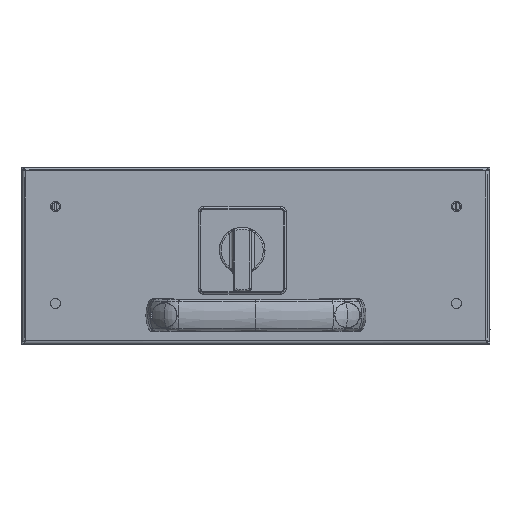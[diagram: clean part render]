
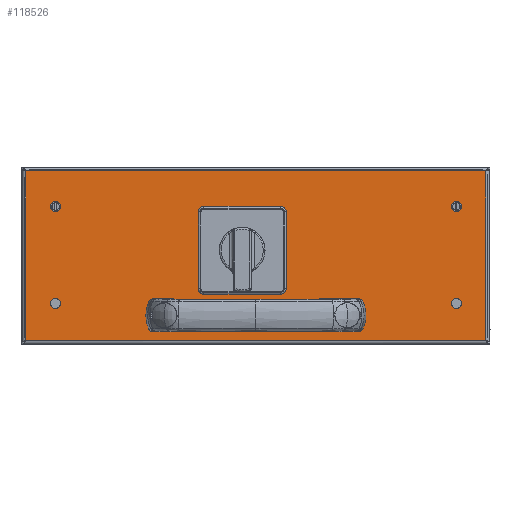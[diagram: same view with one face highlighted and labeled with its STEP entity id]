
A CAD part, top view. The second image highlights one B-rep face of the part: STEP entity #118526.
In plain terms, the highlighted planar face has unit normal (0, 0, 1).
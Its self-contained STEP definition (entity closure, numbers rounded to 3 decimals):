
#117566=CARTESIAN_POINT(' ',(52.75,-32.5,0.));
#117567=VERTEX_POINT(' ',#117566);
#117586=CARTESIAN_POINT(' ',(50.,-32.5,0.));
#117591=DIRECTION(' ',(0.,0.,1.));
#117596=DIRECTION(' ',(1.,0.,0.));
#117601=AXIS2_PLACEMENT_3D(' ',#117586,#117591,#117596);
#117606=CIRCLE('',#117601,2.75);
#117611=CARTESIAN_POINT(' ',(47.25,-32.5,0.));
#117612=VERTEX_POINT(' ',#117611);
#117616=EDGE_CURVE(' ',#117567,#117612,#117606,.T.);
#117786=CARTESIAN_POINT(' ',(50.,-32.5,0.));
#117791=DIRECTION(' ',(0.,0.,1.));
#117796=DIRECTION(' ',(-1.,0.,0.));
#117801=AXIS2_PLACEMENT_3D(' ',#117786,#117791,#117796);
#117806=CIRCLE('',#117801,2.75);
#117811=EDGE_CURVE(' ',#117612,#117567,#117806,.T.);
#117881=DIRECTION(' ',(-0.,-0.,1.));
#117886=CARTESIAN_POINT(' ',(125.65,-46.4,0.));
#117891=DIRECTION(' ',(0.,1.,0.));
#117896=AXIS2_PLACEMENT_3D(' ',#117886,#117881,#117891);
#117901=PLANE('NONE',#117896);
#117906=CARTESIAN_POINT(' ',(-125.65,46.4,0.));
#117911=DIRECTION(' ',(1.,0.,0.));
#117916=VECTOR(' ',#117911,1.);
#117921=LINE('',#117906,#117916);
#117926=CARTESIAN_POINT(' ',(-125.65,46.4,0.));
#117927=VERTEX_POINT(' ',#117926);
#117931=CARTESIAN_POINT(' ',(125.65,46.4,0.));
#117932=VERTEX_POINT(' ',#117931);
#117936=EDGE_CURVE(' ',#117927,#117932,#117921,.T.);
#117941=ORIENTED_EDGE(' ',*,*,#117936,.F.);
#117946=CARTESIAN_POINT(' ',(-125.65,-46.4,0.));
#117951=DIRECTION(' ',(0.,1.,0.));
#117956=VECTOR(' ',#117951,1.);
#117961=LINE('',#117946,#117956);
#117966=CARTESIAN_POINT(' ',(-125.65,-46.4,0.));
#117967=VERTEX_POINT(' ',#117966);
#117971=EDGE_CURVE(' ',#117967,#117927,#117961,.T.);
#117976=ORIENTED_EDGE(' ',*,*,#117971,.F.);
#117981=CARTESIAN_POINT(' ',(125.65,-46.4,0.));
#117986=DIRECTION(' ',(-1.,0.,0.));
#117991=VECTOR(' ',#117986,1.);
#117996=LINE('',#117981,#117991);
#118001=CARTESIAN_POINT(' ',(125.65,-46.4,0.));
#118002=VERTEX_POINT(' ',#118001);
#118006=EDGE_CURVE(' ',#118002,#117967,#117996,.T.);
#118011=ORIENTED_EDGE(' ',*,*,#118006,.F.);
#118016=CARTESIAN_POINT(' ',(125.65,46.4,0.));
#118021=DIRECTION(' ',(0.,-1.,0.));
#118026=VECTOR(' ',#118021,1.);
#118031=LINE('',#118016,#118026);
#118036=EDGE_CURVE(' ',#117932,#118002,#118031,.T.);
#118041=ORIENTED_EDGE(' ',*,*,#118036,.F.);
#118046=EDGE_LOOP(' ',(#117941,#117976,#118011,#118041));
#118051=FACE_OUTER_BOUND(' ',#118046,.T.);
#118056=CARTESIAN_POINT(' ',(-50.,-32.5,0.));
#118061=DIRECTION(' ',(0.,0.,1.));
#118066=DIRECTION(' ',(0.,1.,0.));
#118071=AXIS2_PLACEMENT_3D(' ',#118056,#118061,#118066);
#118076=CIRCLE('',#118071,2.75);
#118081=CARTESIAN_POINT(' ',(-50.,-29.75,0.));
#118082=VERTEX_POINT(' ',#118081);
#118086=CARTESIAN_POINT(' ',(-50.,-35.25,0.));
#118087=VERTEX_POINT(' ',#118086);
#118091=EDGE_CURVE(' ',#118082,#118087,#118076,.T.);
#118096=ORIENTED_EDGE(' ',*,*,#118091,.F.);
#118101=CARTESIAN_POINT(' ',(-50.,-32.5,0.));
#118106=DIRECTION(' ',(0.,0.,1.));
#118111=DIRECTION(' ',(0.,-1.,0.));
#118116=AXIS2_PLACEMENT_3D(' ',#118101,#118106,#118111);
#118121=CIRCLE('',#118116,2.75);
#118126=EDGE_CURVE(' ',#118087,#118082,#118121,.T.);
#118131=ORIENTED_EDGE(' ',*,*,#118126,.F.);
#118136=EDGE_LOOP(' ',(#118096,#118131));
#118141=FACE_BOUND(' ',#118136,.T.);
#118146=CARTESIAN_POINT(' ',(-109.5,-26.,0.));
#118151=DIRECTION(' ',(0.,-0.,1.));
#118156=DIRECTION(' ',(-1.,0.,0.));
#118161=AXIS2_PLACEMENT_3D(' ',#118146,#118151,#118156);
#118166=CIRCLE('',#118161,2.75);
#118171=CARTESIAN_POINT(' ',(-112.25,-26.,0.));
#118172=VERTEX_POINT(' ',#118171);
#118176=CARTESIAN_POINT(' ',(-106.75,-26.,0.));
#118177=VERTEX_POINT(' ',#118176);
#118181=EDGE_CURVE(' ',#118172,#118177,#118166,.T.);
#118186=ORIENTED_EDGE(' ',*,*,#118181,.F.);
#118191=CARTESIAN_POINT(' ',(-109.5,-26.,0.));
#118196=DIRECTION(' ',(0.,0.,1.));
#118201=DIRECTION(' ',(1.,0.,0.));
#118206=AXIS2_PLACEMENT_3D(' ',#118191,#118196,#118201);
#118211=CIRCLE('',#118206,2.75);
#118216=EDGE_CURVE(' ',#118177,#118172,#118211,.T.);
#118221=ORIENTED_EDGE(' ',*,*,#118216,.F.);
#118226=EDGE_LOOP(' ',(#118186,#118221));
#118231=FACE_BOUND(' ',#118226,.T.);
#118236=CARTESIAN_POINT(' ',(109.5,-26.,0.));
#118241=DIRECTION(' ',(0.,-0.,1.));
#118246=DIRECTION(' ',(-1.,0.,0.));
#118251=AXIS2_PLACEMENT_3D(' ',#118236,#118241,#118246);
#118256=CIRCLE('',#118251,2.75);
#118261=CARTESIAN_POINT(' ',(106.75,-26.,0.));
#118262=VERTEX_POINT(' ',#118261);
#118266=CARTESIAN_POINT(' ',(112.25,-26.,0.));
#118267=VERTEX_POINT(' ',#118266);
#118271=EDGE_CURVE(' ',#118262,#118267,#118256,.T.);
#118276=ORIENTED_EDGE(' ',*,*,#118271,.F.);
#118281=CARTESIAN_POINT(' ',(109.5,-26.,0.));
#118286=DIRECTION(' ',(0.,0.,1.));
#118291=DIRECTION(' ',(1.,0.,0.));
#118296=AXIS2_PLACEMENT_3D(' ',#118281,#118286,#118291);
#118301=CIRCLE('',#118296,2.75);
#118306=EDGE_CURVE(' ',#118267,#118262,#118301,.T.);
#118311=ORIENTED_EDGE(' ',*,*,#118306,.F.);
#118316=EDGE_LOOP(' ',(#118276,#118311));
#118321=FACE_BOUND(' ',#118316,.T.);
#118326=CARTESIAN_POINT(' ',(-109.5,27.,0.));
#118331=DIRECTION(' ',(0.,-0.,1.));
#118336=DIRECTION(' ',(-1.,0.,0.));
#118341=AXIS2_PLACEMENT_3D(' ',#118326,#118331,#118336);
#118346=CIRCLE('',#118341,2.75);
#118351=CARTESIAN_POINT(' ',(-112.25,27.,0.));
#118352=VERTEX_POINT(' ',#118351);
#118356=CARTESIAN_POINT(' ',(-106.75,27.,0.));
#118357=VERTEX_POINT(' ',#118356);
#118361=EDGE_CURVE(' ',#118352,#118357,#118346,.T.);
#118366=ORIENTED_EDGE(' ',*,*,#118361,.F.);
#118371=CARTESIAN_POINT(' ',(-109.5,27.,0.));
#118376=DIRECTION(' ',(0.,0.,1.));
#118381=DIRECTION(' ',(1.,0.,0.));
#118386=AXIS2_PLACEMENT_3D(' ',#118371,#118376,#118381);
#118391=CIRCLE('',#118386,2.75);
#118396=EDGE_CURVE(' ',#118357,#118352,#118391,.T.);
#118401=ORIENTED_EDGE(' ',*,*,#118396,.F.);
#118406=EDGE_LOOP(' ',(#118366,#118401));
#118411=FACE_BOUND(' ',#118406,.T.);
#118416=ORIENTED_EDGE(' ',*,*,#117811,.F.);
#118421=ORIENTED_EDGE(' ',*,*,#117616,.F.);
#118426=EDGE_LOOP(' ',(#118416,#118421));
#118431=FACE_BOUND(' ',#118426,.T.);
#118436=CARTESIAN_POINT(' ',(109.5,27.,0.));
#118441=DIRECTION(' ',(0.,-0.,1.));
#118446=DIRECTION(' ',(-1.,0.,0.));
#118451=AXIS2_PLACEMENT_3D(' ',#118436,#118441,#118446);
#118456=CIRCLE('',#118451,2.75);
#118461=CARTESIAN_POINT(' ',(106.75,27.,0.));
#118462=VERTEX_POINT(' ',#118461);
#118466=CARTESIAN_POINT(' ',(112.25,27.,0.));
#118467=VERTEX_POINT(' ',#118466);
#118471=EDGE_CURVE(' ',#118462,#118467,#118456,.T.);
#118476=ORIENTED_EDGE(' ',*,*,#118471,.F.);
#118481=CARTESIAN_POINT(' ',(109.5,27.,0.));
#118486=DIRECTION(' ',(0.,0.,1.));
#118491=DIRECTION(' ',(1.,0.,0.));
#118496=AXIS2_PLACEMENT_3D(' ',#118481,#118486,#118491);
#118501=CIRCLE('',#118496,2.75);
#118506=EDGE_CURVE(' ',#118467,#118462,#118501,.T.);
#118511=ORIENTED_EDGE(' ',*,*,#118506,.F.);
#118516=EDGE_LOOP(' ',(#118476,#118511));
#118521=FACE_BOUND(' ',#118516,.T.);
#118526=ADVANCED_FACE('NONE',(#118051,#118141,#118231,#118321,#118411,#118431,#118521),#117901,.T.);
